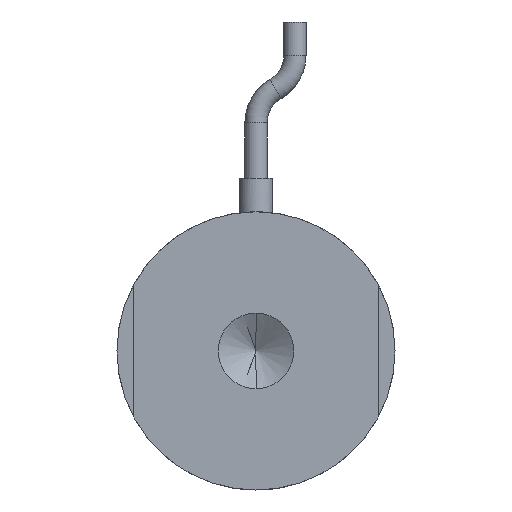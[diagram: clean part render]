
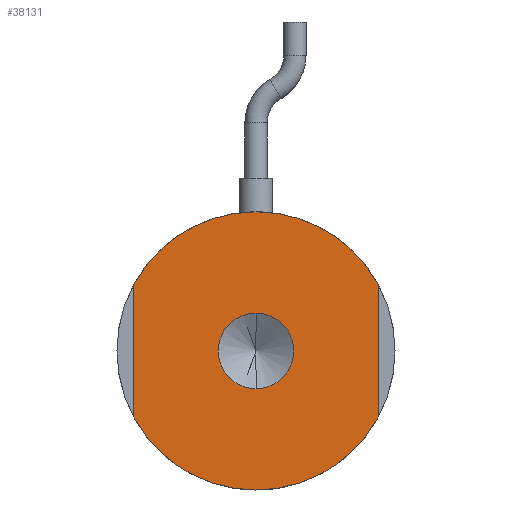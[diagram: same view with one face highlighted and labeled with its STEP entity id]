
A CAD part, front view. The second image highlights one B-rep face of the part: STEP entity #38131.
In plain terms, the highlighted planar face has unit normal (0, -1, 0).
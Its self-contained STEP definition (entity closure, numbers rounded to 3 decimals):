
#159 = ORIENTED_EDGE ( 'NONE', *, *, #22566, .F. ) ;
#624 = CARTESIAN_POINT ( 'NONE',  ( 0., 0., 0. ) ) ;
#1011 = VERTEX_POINT ( 'NONE', #21277 ) ;
#1914 = AXIS2_PLACEMENT_3D ( 'NONE', #624, #25112, #4163 ) ;
#2131 = EDGE_CURVE ( 'NONE', #1011, #37618, #24201, .T. ) ;
#3241 = ORIENTED_EDGE ( 'NONE', *, *, #7944, .F. ) ;
#3403 = ORIENTED_EDGE ( 'NONE', *, *, #9015, .F. ) ;
#4163 = DIRECTION ( 'NONE',  ( 0., 0., 1. ) ) ;
#4561 = CIRCLE ( 'NONE', #1914, 12.5 ) ;
#4573 = VERTEX_POINT ( 'NONE', #31448 ) ;
#4718 = CARTESIAN_POINT ( 'NONE',  ( -11., 0., 0. ) ) ;
#5276 = EDGE_CURVE ( 'NONE', #4573, #26470, #39414, .T. ) ;
#5825 = CARTESIAN_POINT ( 'NONE',  ( 0., 0., -3.4 ) ) ;
#6188 = DIRECTION ( 'NONE',  ( 0., -1., 0. ) ) ;
#7411 = DIRECTION ( 'NONE',  ( 0., 0., 1. ) ) ;
#7944 = EDGE_CURVE ( 'NONE', #37618, #34707, #32870, .T. ) ;
#8597 = ORIENTED_EDGE ( 'NONE', *, *, #8913, .F. ) ;
#8754 = DIRECTION ( 'NONE',  ( 0., 1., 0. ) ) ;
#8913 = EDGE_CURVE ( 'NONE', #40477, #27190, #29003, .T. ) ;
#8940 = CARTESIAN_POINT ( 'NONE',  ( 0., 0., -12.5 ) ) ;
#9015 = EDGE_CURVE ( 'NONE', #27190, #40477, #37188, .T. ) ;
#9987 = CIRCLE ( 'NONE', #40912, 12.5 ) ;
#10700 = FACE_BOUND ( 'NONE', #15147, .T. ) ;
#12541 = DIRECTION ( 'NONE',  ( 0., 1., 0. ) ) ;
#14228 = CARTESIAN_POINT ( 'NONE',  ( 0., 0., 3.4 ) ) ;
#14900 = CARTESIAN_POINT ( 'NONE',  ( 0., 0., 0. ) ) ;
#15147 = EDGE_LOOP ( 'NONE', ( #3403, #8597 ) ) ;
#15419 = AXIS2_PLACEMENT_3D ( 'NONE', #29744, #8754, #33231 ) ;
#18410 = DIRECTION ( 'NONE',  ( 0., 0., -1. ) ) ;
#18592 = DIRECTION ( 'NONE',  ( 0., 1., 0. ) ) ;
#18903 = EDGE_LOOP ( 'NONE', ( #28118, #20926, #3241, #40439, #23224, #159 ) ) ;
#20926 = ORIENTED_EDGE ( 'NONE', *, *, #21112, .F. ) ;
#21112 = EDGE_CURVE ( 'NONE', #34707, #4573, #4561, .T. ) ;
#21277 = CARTESIAN_POINT ( 'NONE',  ( 11., 0., 5.937 ) ) ;
#21913 = VECTOR ( 'NONE', #32415, 1000. ) ;
#22114 = EDGE_CURVE ( 'NONE', #29449, #1011, #9987, .T. ) ;
#22566 = EDGE_CURVE ( 'NONE', #26470, #29449, #24221, .T. ) ;
#23224 = ORIENTED_EDGE ( 'NONE', *, *, #22114, .F. ) ;
#23629 = AXIS2_PLACEMENT_3D ( 'NONE', #39568, #18592, #43095 ) ;
#24201 = LINE ( 'NONE', #33749, #42828 ) ;
#24221 = CIRCLE ( 'NONE', #23629, 12.5 ) ;
#24868 = PLANE ( 'NONE',  #34791 ) ;
#25112 = DIRECTION ( 'NONE',  ( 0., 1., 0. ) ) ;
#26470 = VERTEX_POINT ( 'NONE', #29183 ) ;
#27154 = CARTESIAN_POINT ( 'NONE',  ( 0., 0., 0. ) ) ;
#27190 = VERTEX_POINT ( 'NONE', #5825 ) ;
#28118 = ORIENTED_EDGE ( 'NONE', *, *, #5276, .F. ) ;
#28247 = FACE_OUTER_BOUND ( 'NONE', #18903, .T. ) ;
#28395 = DIRECTION ( 'NONE',  ( 0., 1., 0. ) ) ;
#29003 = CIRCLE ( 'NONE', #35662, 3.4 ) ;
#29183 = CARTESIAN_POINT ( 'NONE',  ( -11., 0., 5.937 ) ) ;
#29449 = VERTEX_POINT ( 'NONE', #35432 ) ;
#29744 = CARTESIAN_POINT ( 'NONE',  ( 0., 0., 0. ) ) ;
#30655 = DIRECTION ( 'NONE',  ( 0., 0., -1. ) ) ;
#30984 = AXIS2_PLACEMENT_3D ( 'NONE', #27154, #6188, #30655 ) ;
#31448 = CARTESIAN_POINT ( 'NONE',  ( -11., 0., -5.937 ) ) ;
#31758 = CARTESIAN_POINT ( 'NONE',  ( 0., 0., 0. ) ) ;
#32415 = DIRECTION ( 'NONE',  ( 0., 0., 1. ) ) ;
#32848 = DIRECTION ( 'NONE',  ( 0., 0., -1. ) ) ;
#32870 = CIRCLE ( 'NONE', #15419, 12.5 ) ;
#33231 = DIRECTION ( 'NONE',  ( 0., 0., 1. ) ) ;
#33499 = CARTESIAN_POINT ( 'NONE',  ( 0., 0., 0. ) ) ;
#33749 = CARTESIAN_POINT ( 'NONE',  ( 11., 0., 0. ) ) ;
#34707 = VERTEX_POINT ( 'NONE', #8940 ) ;
#34791 = AXIS2_PLACEMENT_3D ( 'NONE', #31758, #28395, #7411 ) ;
#35432 = CARTESIAN_POINT ( 'NONE',  ( 0., 0., 12.5 ) ) ;
#35662 = AXIS2_PLACEMENT_3D ( 'NONE', #14900, #39377, #18410 ) ;
#37005 = DIRECTION ( 'NONE',  ( 0., 0., 1. ) ) ;
#37188 = CIRCLE ( 'NONE', #30984, 3.4 ) ;
#37618 = VERTEX_POINT ( 'NONE', #39013 ) ;
#38131 = ADVANCED_FACE ( 'NONE', ( #10700, #28247 ), #24868, .F. ) ;
#39013 = CARTESIAN_POINT ( 'NONE',  ( 11., 0., -5.937 ) ) ;
#39377 = DIRECTION ( 'NONE',  ( 0., -1., 0. ) ) ;
#39414 = LINE ( 'NONE', #4718, #21913 ) ;
#39568 = CARTESIAN_POINT ( 'NONE',  ( 0., 0., 0. ) ) ;
#40439 = ORIENTED_EDGE ( 'NONE', *, *, #2131, .F. ) ;
#40477 = VERTEX_POINT ( 'NONE', #14228 ) ;
#40912 = AXIS2_PLACEMENT_3D ( 'NONE', #33499, #12541, #37005 ) ;
#42828 = VECTOR ( 'NONE', #32848, 1000. ) ;
#43095 = DIRECTION ( 'NONE',  ( 0., 0., 1. ) ) ;
